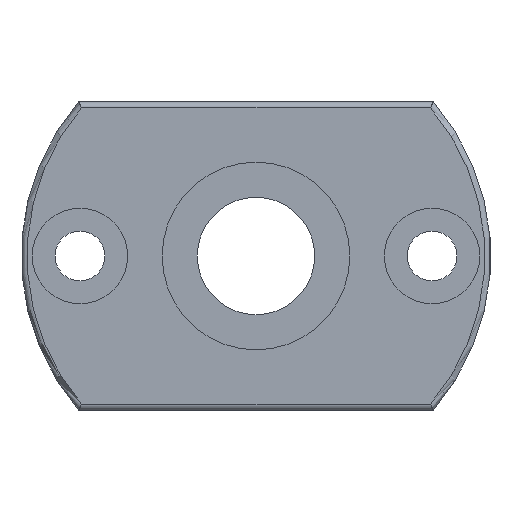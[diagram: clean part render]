
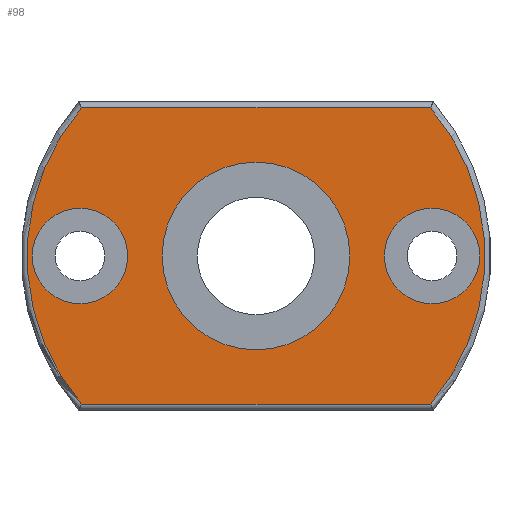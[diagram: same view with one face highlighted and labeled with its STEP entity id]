
A CAD part, left-side view. The second image highlights one B-rep face of the part: STEP entity #98.
In plain terms, the highlighted planar face has unit normal (-1, 0, 0).
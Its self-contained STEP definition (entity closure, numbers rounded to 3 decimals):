
#98 = ADVANCED_FACE( '', ( #210, #211, #212, #213 ), #214, .T. );
#210 = FACE_BOUND( '', #329, .T. );
#211 = FACE_BOUND( '', #330, .T. );
#212 = FACE_OUTER_BOUND( '', #331, .T. );
#213 = FACE_BOUND( '', #332, .T. );
#214 = PLANE( '', #333 );
#329 = EDGE_LOOP( '', ( #522 ) );
#330 = EDGE_LOOP( '', ( #523 ) );
#331 = EDGE_LOOP( '', ( #524, #525, #526, #527 ) );
#332 = EDGE_LOOP( '', ( #528 ) );
#333 = AXIS2_PLACEMENT_3D( '', #529, #530, #531 );
#522 = ORIENTED_EDGE( '', *, *, #612, .T. );
#523 = ORIENTED_EDGE( '', *, *, #578, .T. );
#524 = ORIENTED_EDGE( '', *, *, #628, .T. );
#525 = ORIENTED_EDGE( '', *, *, #636, .T. );
#526 = ORIENTED_EDGE( '', *, *, #641, .T. );
#527 = ORIENTED_EDGE( '', *, *, #632, .T. );
#528 = ORIENTED_EDGE( '', *, *, #610, .F. );
#529 = CARTESIAN_POINT( '', ( 0., 11.098, 0. ) );
#530 = DIRECTION( '', ( -1., 0., 0. ) );
#531 = DIRECTION( '', ( 0., 1., 0. ) );
#578 = EDGE_CURVE( '', #656, #656, #657, .T. );
#610 = EDGE_CURVE( '', #708, #708, #709, .T. );
#612 = EDGE_CURVE( '', #711, #711, #712, .T. );
#628 = EDGE_CURVE( '', #736, #734, #737, .T. );
#632 = EDGE_CURVE( '', #740, #736, #742, .T. );
#636 = EDGE_CURVE( '', #734, #745, #747, .T. );
#641 = EDGE_CURVE( '', #745, #740, #752, .T. );
#656 = VERTEX_POINT( '', #768 );
#657 = CIRCLE( '', #769, 3.25 );
#708 = VERTEX_POINT( '', #844 );
#709 = CIRCLE( '', #845, 6.396 );
#711 = VERTEX_POINT( '', #847 );
#712 = CIRCLE( '', #848, 3.25 );
#734 = VERTEX_POINT( '', #874 );
#736 = VERTEX_POINT( '', #881 );
#737 = CIRCLE( '', #882, 15.6 );
#740 = VERTEX_POINT( '', #890 );
#742 = LINE( '', #897, #898 );
#745 = VERTEX_POINT( '', #902 );
#747 = LINE( '', #909, #910 );
#752 = CIRCLE( '', #916, 15.6 );
#768 = CARTESIAN_POINT( '', ( 0., -15.25, 0. ) );
#769 = AXIS2_PLACEMENT_3D( '', #932, #933, #934 );
#844 = CARTESIAN_POINT( '', ( 0., 6.396, 0. ) );
#845 = AXIS2_PLACEMENT_3D( '', #981, #982, #983 );
#847 = CARTESIAN_POINT( '', ( 0., 15.25, 0. ) );
#848 = AXIS2_PLACEMENT_3D( '', #984, #985, #986 );
#874 = CARTESIAN_POINT( '', ( 0., -11.889, 10.1 ) );
#881 = CARTESIAN_POINT( '', ( 0., -11.889, -10.1 ) );
#882 = AXIS2_PLACEMENT_3D( '', #1006, #1007, #1008 );
#890 = CARTESIAN_POINT( '', ( 0., 11.889, -10.1 ) );
#897 = CARTESIAN_POINT( '', ( 0., -11.537, -10.1 ) );
#898 = VECTOR( '', #1009, 1000. );
#902 = CARTESIAN_POINT( '', ( 0., 11.889, 10.1 ) );
#909 = CARTESIAN_POINT( '', ( 0., 11.537, 10.1 ) );
#910 = VECTOR( '', #1011, 1000. );
#916 = AXIS2_PLACEMENT_3D( '', #1016, #1017, #1018 );
#932 = CARTESIAN_POINT( '', ( 0., -12., 0. ) );
#933 = DIRECTION( '', ( 1., 0., 0. ) );
#934 = DIRECTION( '', ( 0., -1., 0. ) );
#981 = CARTESIAN_POINT( '', ( 0., 0., 0. ) );
#982 = DIRECTION( '', ( -1., 0., 0. ) );
#983 = DIRECTION( '', ( 0., 1., 0. ) );
#984 = CARTESIAN_POINT( '', ( 0., 12., 0. ) );
#985 = DIRECTION( '', ( 1., 0., 0. ) );
#986 = DIRECTION( '', ( 0., 1., 0. ) );
#1006 = CARTESIAN_POINT( '', ( 0., 0., 0. ) );
#1007 = DIRECTION( '', ( -1., 0., 0. ) );
#1008 = DIRECTION( '', ( 0., 0., 1. ) );
#1009 = DIRECTION( '', ( 0., -1., 0. ) );
#1011 = DIRECTION( '', ( 0., 1., 0. ) );
#1016 = CARTESIAN_POINT( '', ( 0., 0., 0. ) );
#1017 = DIRECTION( '', ( -1., 0., 0. ) );
#1018 = DIRECTION( '', ( 0., 0., 1. ) );
